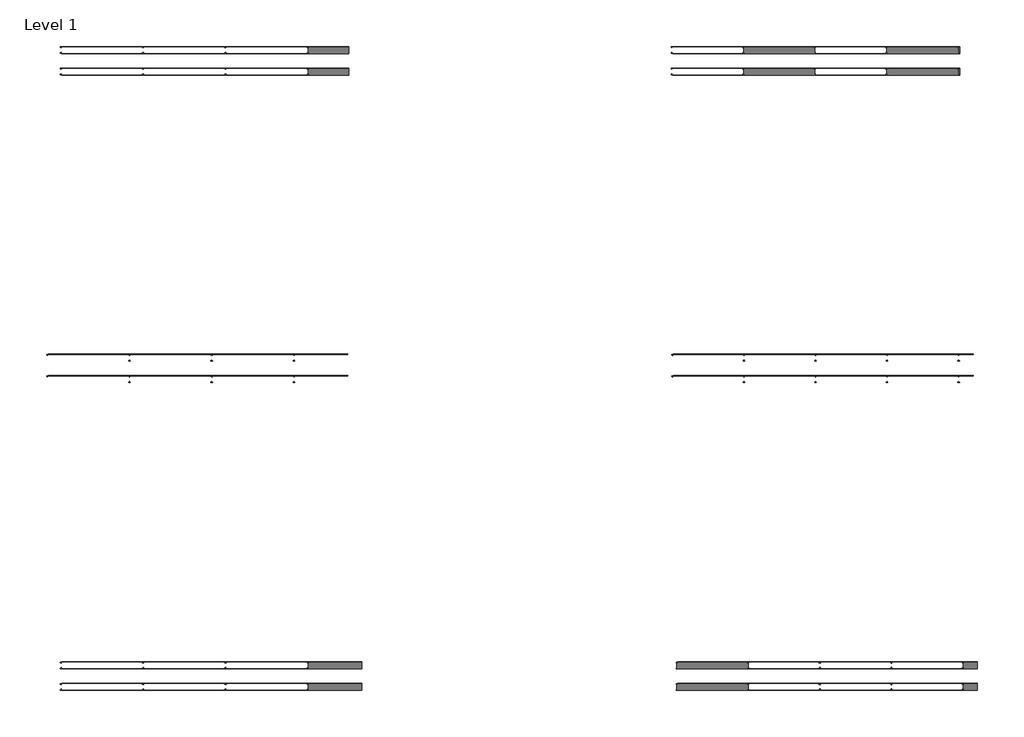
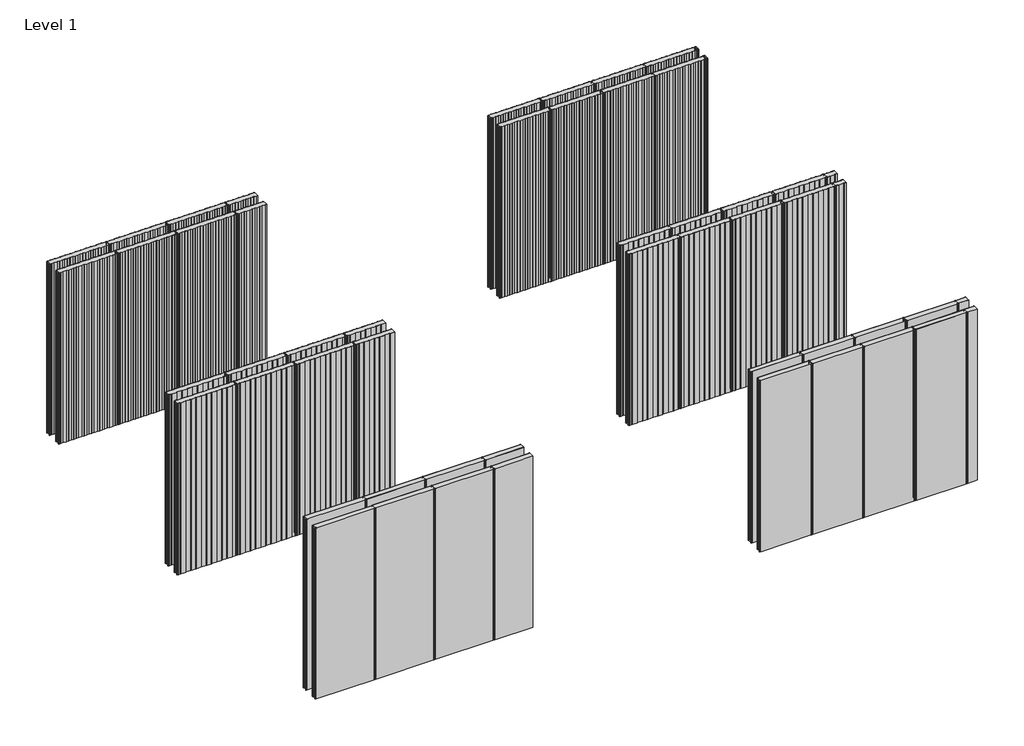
# One storey: 27 plates.
"""IFC4 building model written with IfcOpenShell, lengths in millimetres."""

from ifc_helpers import new_model, si_unit, origin, place, context, project, spatial, transform, mapped, element, save
from components import plate_c56acabb, plate_211f3b0a, plate_c1fa482e, plate_f4a87b82, curtain_panel_acoustic_double_panel_flat_profile_pm1_a2492d6a, curtain_panel_acoustic_double_panel_flat_profile_pm1_77b9866a, curtain_panel_acoustic_double_panel_flat_profile_pmh_b9cf46a1, curtain_panel_acoustic_double_panel_flat_profile_pmh_cdc7bbb9, curtain_panel_acoustic_double_panel_standard_profile_pm1_ad094080, curtain_panel_acoustic_double_panel_standard_profile_pm1_c86cb39e, curtain_panel_acoustic_double_panel_standard_profile_pm1_bc3a73cf, curtain_panel_acoustic_double_panel_standard_profile_pm1_645c54cf, curtain_panel_acoustic_double_panel_standard_profile_pm1_802b12fa, curtain_panel_acoustic_double_panel_standard_profile_pmh_ba880325, curtain_panel_acoustic_double_panel_standard_profile_pmh_10210fed

model = new_model("IFC4")

# Units and contexts
model_context = context("Model", 3, world=origin())
ifc_project = project(units=[si_unit("LENGTHUNIT", "METRE", prefix="MILLI")], contexts=[model_context])

# Site, building, storey
site = spatial("IfcSite", under=ifc_project)
building = spatial("IfcBuilding", under=site)
storey = spatial("IfcBuildingStorey", under=building, Name="Level 1", Elevation=0.0)

# Plates
placement = place(None, origin())
plate_shape = plate_c56acabb(model_context)
element("IfcPlate", 1, ObjectType="Curtain-Panel_Acoustic-Double-Panel_Micro-ribbed-profile-PMH : ACH_Acoustic-Double-Panel_PMH_100-200-100", at=placement, inside=storey, context=model_context, shape_type="MappedRepresentation", body=[
    mapped(plate_shape, transform((-2263.9933373, -3496.3117817, 0.0), x_axis=(1.0, 0.0, 0.0), y_axis=(0.0, 1.0, 0.0), z_axis=(0.0, 0.0, 1.0))),
])
element("IfcPlate", 2, ObjectType="Curtain-Panel_Acoustic-Double-Panel_Micro-ribbed-profile-PMH : ACH_Acoustic-Double-Panel_PMH_100-200-100", at=placement, inside=storey, context=model_context, shape_type="MappedRepresentation", body=[
    mapped(plate_shape, transform((-1263.9933373, -3496.3117817, 0.0), x_axis=(1.0, 0.0, 0.0), y_axis=(0.0, 1.0, 0.0), z_axis=(0.0, 0.0, 1.0))),
])
element("IfcPlate", 3, ObjectType="Curtain-Panel_Acoustic-Double-Panel_Micro-ribbed-profile-PMH : ACH_Acoustic-Double-Panel_PMH_100-200-100", at=placement, inside=storey, context=model_context, shape_type="MappedRepresentation", body=[
    mapped(plate_shape, transform((-263.9933373, -3496.3117817, 0.0), x_axis=(1.0, 0.0, 0.0), y_axis=(0.0, 1.0, 0.0), z_axis=(0.0, 0.0, 1.0))),
])
element("IfcPlate", 4, ObjectType="Curtain-Panel_Acoustic-Double-Panel_Micro-ribbed-profile-PMH : ACH_Acoustic-Double-Panel_PMH_100-200-100", at=placement, inside=storey, context=model_context, shape_type="MappedRepresentation", body=[
    mapped(plate_shape, transform((736.0066627, -3496.3117817, 0.0), x_axis=(1.0, 0.0, 0.0), y_axis=(0.0, 1.0, 0.0), z_axis=(0.0, 0.0, 1.0))),
])
plate_2_shape = plate_211f3b0a(model_context)
element("IfcPlate", 5, ObjectType="Curtain-Panel_Acoustic-Double-Panel_Micro-ribbed-profile-PMH : ACH_Acoustic-Double-Panel_PMH_100-200-100", at=placement, inside=storey, context=model_context, shape_type="MappedRepresentation", body=[
    mapped(plate_2_shape, transform((1336.0066627, -3496.3117817, 0.0), x_axis=(1.0, 0.0, 0.0), y_axis=(0.0, 1.0, 0.0), z_axis=(0.0, 0.0, 1.0))),
])
plate_3_shape = plate_c1fa482e(model_context)
element("IfcPlate", 6, ObjectType="Curtain-Panel_Acoustic-Double-Panel_Micro-ribbed-profile-PM1 : ACH_Acoustic-Double-Panel_PM1_100-200-100", at=placement, inside=storey, context=model_context, shape_type="MappedRepresentation", body=[
    mapped(plate_3_shape, transform((-10921.1882693, -3496.3117817, 0.0), x_axis=(1.0, 0.0, 0.0), y_axis=(0.0, 1.0, 0.0), z_axis=(0.0, 0.0, 1.0))),
])
element("IfcPlate", 7, ObjectType="Curtain-Panel_Acoustic-Double-Panel_Micro-ribbed-profile-PM1 : ACH_Acoustic-Double-Panel_PM1_100-200-100", at=placement, inside=storey, context=model_context, shape_type="MappedRepresentation", body=[
    mapped(plate_3_shape, transform((-9771.1882693, -3496.3117817, 0.0), x_axis=(1.0, 0.0, 0.0), y_axis=(0.0, 1.0, 0.0), z_axis=(0.0, 0.0, 1.0))),
])
element("IfcPlate", 8, ObjectType="Curtain-Panel_Acoustic-Double-Panel_Micro-ribbed-profile-PM1 : ACH_Acoustic-Double-Panel_PM1_100-200-100", at=placement, inside=storey, context=model_context, shape_type="MappedRepresentation", body=[
    mapped(plate_3_shape, transform((-8621.1882693, -3496.3117817, 0.0), x_axis=(1.0, 0.0, 0.0), y_axis=(0.0, 1.0, 0.0), z_axis=(0.0, 0.0, 1.0))),
])
plate_4_shape = plate_f4a87b82(model_context)
element("IfcPlate", 9, ObjectType="Curtain-Panel_Acoustic-Double-Panel_Micro-ribbed-profile-PM1 : ACH_Acoustic-Double-Panel_PM1_100-200-100", at=placement, inside=storey, context=model_context, shape_type="MappedRepresentation", body=[
    mapped(plate_4_shape, transform((-7671.1882693, -3496.3117817, 0.0), x_axis=(1.0, 0.0, 0.0), y_axis=(0.0, 1.0, 0.0), z_axis=(0.0, 0.0, 1.0))),
])
curtain_panel_acoustic_double_panel_flat_profile_pm1_shape = curtain_panel_acoustic_double_panel_flat_profile_pm1_a2492d6a(model_context)
element("IfcPlate", 10, ObjectType="Curtain-Panel_Acoustic-Double-Panel_Flat-profile-PM1 : ACH_Acoustic-Double-Panel_PM1_100-200-100", at=placement, inside=storey, context=model_context, shape_type="MappedRepresentation", body=[
    mapped(curtain_panel_acoustic_double_panel_flat_profile_pm1_shape, transform((-10729.4132588, -7795.1131879, 0.0), x_axis=(1.0, 0.0, 0.0), y_axis=(0.0, 1.0, 0.0), z_axis=(0.0, 0.0, 1.0))),
])
element("IfcPlate", 11, ObjectType="Curtain-Panel_Acoustic-Double-Panel_Flat-profile-PM1 : ACH_Acoustic-Double-Panel_PM1_100-200-100", at=placement, inside=storey, context=model_context, shape_type="MappedRepresentation", body=[
    mapped(curtain_panel_acoustic_double_panel_flat_profile_pm1_shape, transform((-9579.4132588, -7795.1131879, 0.0), x_axis=(1.0, 0.0, 0.0), y_axis=(0.0, 1.0, 0.0), z_axis=(0.0, 0.0, 1.0))),
])
element("IfcPlate", 12, ObjectType="Curtain-Panel_Acoustic-Double-Panel_Flat-profile-PM1 : ACH_Acoustic-Double-Panel_PM1_100-200-100", at=placement, inside=storey, context=model_context, shape_type="MappedRepresentation", body=[
    mapped(curtain_panel_acoustic_double_panel_flat_profile_pm1_shape, transform((-8429.4132588, -7795.1131879, 0.0), x_axis=(1.0, 0.0, 0.0), y_axis=(0.0, 1.0, 0.0), z_axis=(0.0, 0.0, 1.0))),
])
curtain_panel_acoustic_double_panel_flat_profile_pm1_2_shape = curtain_panel_acoustic_double_panel_flat_profile_pm1_77b9866a(model_context)
element("IfcPlate", 13, ObjectType="Curtain-Panel_Acoustic-Double-Panel_Flat-profile-PM1 : ACH_Acoustic-Double-Panel_PM1_100-200-100", at=placement, inside=storey, context=model_context, shape_type="MappedRepresentation", body=[
    mapped(curtain_panel_acoustic_double_panel_flat_profile_pm1_2_shape, transform((-7479.4132588, -7795.1131879, 0.0), x_axis=(1.0, 0.0, 0.0), y_axis=(0.0, 1.0, 0.0), z_axis=(0.0, 0.0, 1.0))),
])
curtain_panel_acoustic_double_panel_flat_profile_pmh_shape = curtain_panel_acoustic_double_panel_flat_profile_pmh_b9cf46a1(model_context)
element("IfcPlate", 14, ObjectType="Curtain-Panel_Acoustic-Double-Panel_Flat-profile-PMH : ACH_Acoustic-Double-Panel_PMH_100-200-100", at=placement, inside=storey, context=model_context, shape_type="MappedRepresentation", body=[
    mapped(curtain_panel_acoustic_double_panel_flat_profile_pmh_shape, transform((-2204.4132588, -7795.1131879, 0.0), x_axis=(1.0, 0.0, 0.0), y_axis=(0.0, 1.0, 0.0), z_axis=(0.0, 0.0, 1.0))),
])
element("IfcPlate", 15, ObjectType="Curtain-Panel_Acoustic-Double-Panel_Flat-profile-PMH : ACH_Acoustic-Double-Panel_PMH_100-200-100", at=placement, inside=storey, context=model_context, shape_type="MappedRepresentation", body=[
    mapped(curtain_panel_acoustic_double_panel_flat_profile_pmh_shape, transform((-1204.4132588, -7795.1131879, 0.0), x_axis=(1.0, 0.0, 0.0), y_axis=(0.0, 1.0, 0.0), z_axis=(0.0, 0.0, 1.0))),
])
element("IfcPlate", 16, ObjectType="Curtain-Panel_Acoustic-Double-Panel_Flat-profile-PMH : ACH_Acoustic-Double-Panel_PMH_100-200-100", at=placement, inside=storey, context=model_context, shape_type="MappedRepresentation", body=[
    mapped(curtain_panel_acoustic_double_panel_flat_profile_pmh_shape, transform((-204.4132588, -7795.1131879, 0.0), x_axis=(1.0, 0.0, 0.0), y_axis=(0.0, 1.0, 0.0), z_axis=(0.0, 0.0, 1.0))),
])
element("IfcPlate", 17, ObjectType="Curtain-Panel_Acoustic-Double-Panel_Flat-profile-PMH : ACH_Acoustic-Double-Panel_PMH_100-200-100", at=placement, inside=storey, context=model_context, shape_type="MappedRepresentation", body=[
    mapped(curtain_panel_acoustic_double_panel_flat_profile_pmh_shape, transform((795.5867412, -7795.1131879, 0.0), x_axis=(1.0, 0.0, 0.0), y_axis=(0.0, 1.0, 0.0), z_axis=(0.0, 0.0, 1.0))),
])
curtain_panel_acoustic_double_panel_flat_profile_pmh_2_shape = curtain_panel_acoustic_double_panel_flat_profile_pmh_cdc7bbb9(model_context)
element("IfcPlate", 18, ObjectType="Curtain-Panel_Acoustic-Double-Panel_Flat-profile-PMH : ACH_Acoustic-Double-Panel_PMH_100-200-100", at=placement, inside=storey, context=model_context, shape_type="MappedRepresentation", body=[
    mapped(curtain_panel_acoustic_double_panel_flat_profile_pmh_2_shape, transform((1395.5867412, -7795.1131879, 0.0), x_axis=(1.0, 0.0, 0.0), y_axis=(0.0, 1.0, 0.0), z_axis=(0.0, 0.0, 1.0))),
])
curtain_panel_acoustic_double_panel_standard_profile_pm1_shape = curtain_panel_acoustic_double_panel_standard_profile_pm1_ad094080(model_context)
curtain_panel_acoustic_double_panel_standard_profile_pm1_2_shape = curtain_panel_acoustic_double_panel_standard_profile_pm1_c86cb39e(model_context)
curtain_panel_acoustic_double_panel_standard_profile_pm1_3_shape = curtain_panel_acoustic_double_panel_standard_profile_pm1_bc3a73cf(model_context)
curtain_panel_acoustic_double_panel_standard_profile_pm1_4_shape = curtain_panel_acoustic_double_panel_standard_profile_pm1_645c54cf(model_context)
element("IfcPlate", 19, ObjectType="Curtain-Panel_Acoustic-Double-Panel_Standard-profile-PM1 : ACH_Acoustic-Double-Panel_PM1_100-200-100", at=placement, inside=storey, context=model_context, shape_type="MappedRepresentation", body=[
    mapped(curtain_panel_acoustic_double_panel_standard_profile_pm1_shape, transform((-10729.4132588, 804.8868121, 0.0), x_axis=(1.0, 0.0, 0.0), y_axis=(0.0, 1.0, 0.0), z_axis=(0.0, 0.0, 1.0))),
    mapped(curtain_panel_acoustic_double_panel_standard_profile_pm1_2_shape, transform((-10729.4132588, 804.8868121, 0.0), x_axis=(1.0, 0.0, 0.0), y_axis=(0.0, 1.0, 0.0), z_axis=(0.0, 0.0, 1.0))),
    mapped(curtain_panel_acoustic_double_panel_standard_profile_pm1_3_shape, transform((-10729.4132588, 804.8868121, 0.0), x_axis=(1.0, 0.0, 0.0), y_axis=(0.0, 1.0, 0.0), z_axis=(0.0, 0.0, 1.0))),
    mapped(curtain_panel_acoustic_double_panel_standard_profile_pm1_4_shape, transform((-10729.4132588, 804.8868121, 0.0), x_axis=(1.0, 0.0, 0.0), y_axis=(0.0, 1.0, 0.0), z_axis=(0.0, 0.0, 1.0))),
])
element("IfcPlate", 20, ObjectType="Curtain-Panel_Acoustic-Double-Panel_Standard-profile-PM1 : ACH_Acoustic-Double-Panel_PM1_100-200-100", at=placement, inside=storey, context=model_context, shape_type="MappedRepresentation", body=[
    mapped(curtain_panel_acoustic_double_panel_standard_profile_pm1_shape, transform((-9579.4132588, 804.8868121, 0.0), x_axis=(1.0, 0.0, 0.0), y_axis=(0.0, 1.0, 0.0), z_axis=(0.0, 0.0, 1.0))),
    mapped(curtain_panel_acoustic_double_panel_standard_profile_pm1_2_shape, transform((-9579.4132588, 804.8868121, 0.0), x_axis=(1.0, 0.0, 0.0), y_axis=(0.0, 1.0, 0.0), z_axis=(0.0, 0.0, 1.0))),
    mapped(curtain_panel_acoustic_double_panel_standard_profile_pm1_3_shape, transform((-9579.4132588, 804.8868121, 0.0), x_axis=(1.0, 0.0, 0.0), y_axis=(0.0, 1.0, 0.0), z_axis=(0.0, 0.0, 1.0))),
    mapped(curtain_panel_acoustic_double_panel_standard_profile_pm1_4_shape, transform((-9579.4132588, 804.8868121, 0.0), x_axis=(1.0, 0.0, 0.0), y_axis=(0.0, 1.0, 0.0), z_axis=(0.0, 0.0, 1.0))),
])
element("IfcPlate", 21, ObjectType="Curtain-Panel_Acoustic-Double-Panel_Standard-profile-PM1 : ACH_Acoustic-Double-Panel_PM1_100-200-100", at=placement, inside=storey, context=model_context, shape_type="MappedRepresentation", body=[
    mapped(curtain_panel_acoustic_double_panel_standard_profile_pm1_shape, transform((-8429.4132588, 804.8868121, 0.0), x_axis=(1.0, 0.0, 0.0), y_axis=(0.0, 1.0, 0.0), z_axis=(0.0, 0.0, 1.0))),
    mapped(curtain_panel_acoustic_double_panel_standard_profile_pm1_2_shape, transform((-8429.4132588, 804.8868121, 0.0), x_axis=(1.0, 0.0, 0.0), y_axis=(0.0, 1.0, 0.0), z_axis=(0.0, 0.0, 1.0))),
    mapped(curtain_panel_acoustic_double_panel_standard_profile_pm1_3_shape, transform((-8429.4132588, 804.8868121, 0.0), x_axis=(1.0, 0.0, 0.0), y_axis=(0.0, 1.0, 0.0), z_axis=(0.0, 0.0, 1.0))),
    mapped(curtain_panel_acoustic_double_panel_standard_profile_pm1_4_shape, transform((-8429.4132588, 804.8868121, 0.0), x_axis=(1.0, 0.0, 0.0), y_axis=(0.0, 1.0, 0.0), z_axis=(0.0, 0.0, 1.0))),
])
curtain_panel_acoustic_double_panel_standard_profile_pm1_5_shape = curtain_panel_acoustic_double_panel_standard_profile_pm1_802b12fa(model_context)
element("IfcPlate", 22, ObjectType="Curtain-Panel_Acoustic-Double-Panel_Standard-profile-PM1 : ACH_Acoustic-Double-Panel_PM1_100-200-100", at=placement, inside=storey, context=model_context, shape_type="MappedRepresentation", body=[
    mapped(curtain_panel_acoustic_double_panel_standard_profile_pm1_5_shape, transform((-7569.4132588, 804.8868121, 0.0), x_axis=(1.0, 0.0, 0.0), y_axis=(0.0, 1.0, 0.0), z_axis=(0.0, 0.0, 1.0))),
])
curtain_panel_acoustic_double_panel_standard_profile_pmh_shape = curtain_panel_acoustic_double_panel_standard_profile_pmh_ba880325(model_context)
element("IfcPlate", 23, ObjectType="Curtain-Panel_Acoustic-Double-Panel_Standard-profile-PMH : ACH_Acoustic-Double-Panel_PMH_100-200-100", at=placement, inside=storey, context=model_context, shape_type="MappedRepresentation", body=[
    mapped(curtain_panel_acoustic_double_panel_standard_profile_pmh_shape, transform((-2272.2183268, 804.8868121, 0.0), x_axis=(1.0, 0.0, 0.0), y_axis=(0.0, 1.0, 0.0), z_axis=(0.0, 0.0, 1.0))),
])
element("IfcPlate", 24, ObjectType="Curtain-Panel_Acoustic-Double-Panel_Standard-profile-PMH : ACH_Acoustic-Double-Panel_PMH_100-200-100", at=placement, inside=storey, context=model_context, shape_type="MappedRepresentation", body=[
    mapped(curtain_panel_acoustic_double_panel_standard_profile_pmh_shape, transform((-1272.2183268, 804.8868121, 0.0), x_axis=(1.0, 0.0, 0.0), y_axis=(0.0, 1.0, 0.0), z_axis=(0.0, 0.0, 1.0))),
])
element("IfcPlate", 25, ObjectType="Curtain-Panel_Acoustic-Double-Panel_Standard-profile-PMH : ACH_Acoustic-Double-Panel_PMH_100-200-100", at=placement, inside=storey, context=model_context, shape_type="MappedRepresentation", body=[
    mapped(curtain_panel_acoustic_double_panel_standard_profile_pmh_shape, transform((-272.2183268, 804.8868121, 0.0), x_axis=(1.0, 0.0, 0.0), y_axis=(0.0, 1.0, 0.0), z_axis=(0.0, 0.0, 1.0))),
])
element("IfcPlate", 26, ObjectType="Curtain-Panel_Acoustic-Double-Panel_Standard-profile-PMH : ACH_Acoustic-Double-Panel_PMH_100-200-100", at=placement, inside=storey, context=model_context, shape_type="MappedRepresentation", body=[
    mapped(curtain_panel_acoustic_double_panel_standard_profile_pmh_shape, transform((727.7816732, 804.8868121, 0.0), x_axis=(1.0, 0.0, 0.0), y_axis=(0.0, 1.0, 0.0), z_axis=(0.0, 0.0, 1.0))),
])
curtain_panel_acoustic_double_panel_standard_profile_pmh_2_shape = curtain_panel_acoustic_double_panel_standard_profile_pmh_10210fed(model_context)
element("IfcPlate", 27, ObjectType="Curtain-Panel_Acoustic-Double-Panel_Standard-profile-PMH : ACH_Acoustic-Double-Panel_PMH_100-200-100", at=placement, inside=storey, context=model_context, shape_type="MappedRepresentation", body=[
    mapped(curtain_panel_acoustic_double_panel_standard_profile_pmh_2_shape, transform((1237.7816732, 804.8868121, 0.0), x_axis=(1.0, 0.0, 0.0), y_axis=(0.0, 1.0, 0.0), z_axis=(0.0, 0.0, 1.0))),
])

save(model, "model.ifc")
